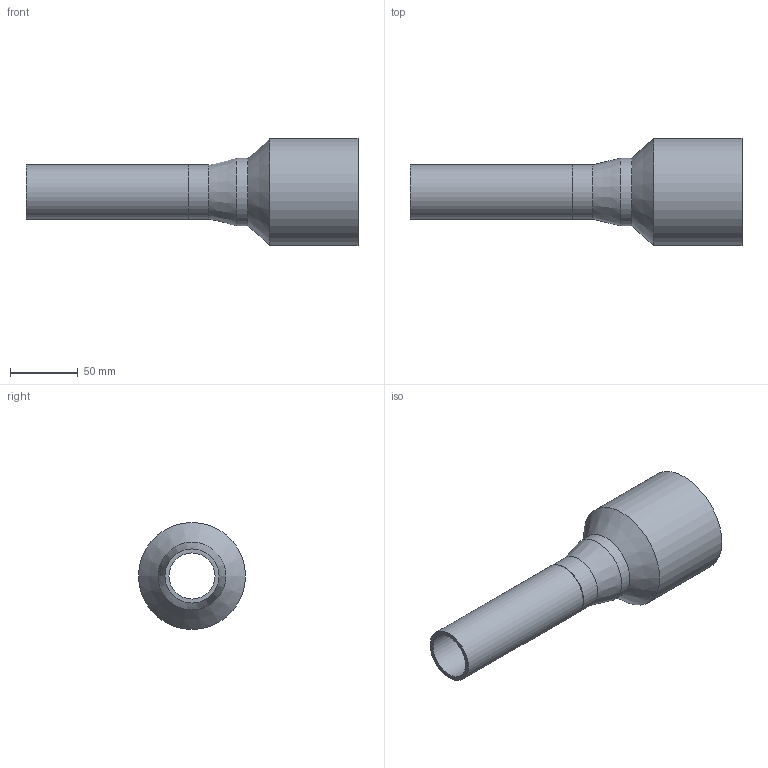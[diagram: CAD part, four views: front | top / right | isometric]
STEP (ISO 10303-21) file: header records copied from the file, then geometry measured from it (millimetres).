
FILE_DESCRIPTION(/* description */ (''),/* implementation_level */ '2;1');
FILE_NAME(/* name */ 'Z:\Geberit\Export\NewStep\152155.stp',/* time_stamp */ '2014-03-31T08:23:09+02:00',/* author */ ('nelson'),/* organization */ (''),/* preprocessor_version */ 'ST-DEVELOPER v15.2',/* originating_system */ 'Autodesk Inventor 2014',/* authorisation */ '');
FILE_SCHEMA (('AUTOMOTIVE_DESIGN { 1 0 10303 214 3 1 1 }'));
Length unit declared in the file: millimetre
Products named in the file (1): 152155
Bounding box: 245 x 79 x 79 mm (x, y, z)
Volume: 114855.8 mm3; surface area: 79984.3 mm2
Topology: 1 solids, 1 shells, 15 faces, 28 edges, 15 vertices
Faces by surface type: cylinder 7, cone 6, plane 2
Full cylindrical faces by diameter (mm): 34 x1, 40 x2, 44 x1, 50 x1, 73 x1, 79 x1
Entity records: 344 total; most frequent: DIRECTION 62, CARTESIAN_POINT 46, AXIS2_PLACEMENT_3D 31, EDGE_LOOP 30, ORIENTED_EDGE 30, FACE_BOUND 16, STYLED_ITEM 16, CIRCLE 15
